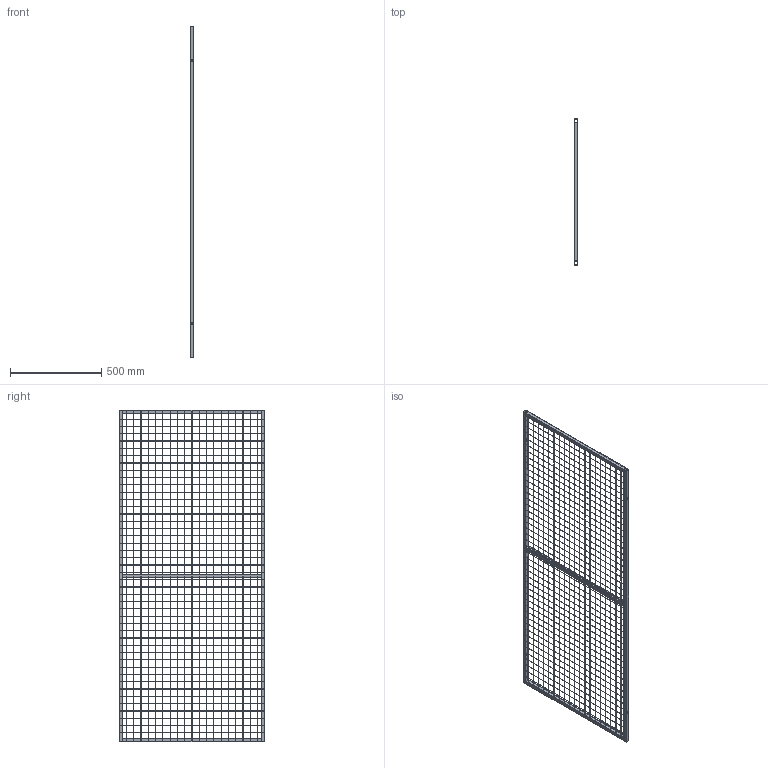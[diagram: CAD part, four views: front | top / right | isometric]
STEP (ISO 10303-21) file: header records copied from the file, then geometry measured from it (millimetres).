
FILE_DESCRIPTION (( 'STEP AP203' ), '1' );
FILE_NAME ('800.STEP', '2023-03-14T02:40:04', ( '504148165@qq.com' ), ( '' ), 'SwSTEP 2.0', 'SolidWorks 2021', '' );
FILE_SCHEMA (( 'CONFIG_CONTROL_DESIGN' ));
Length unit declared in the file: millimetre
Products named in the file (4): 800厙え; 800; 1820
Assembly tree (6 placements, depth 2):
  800
    1820  x2
    800  x3
    800厙え
Bounding box: 21 x 800 x 1820 mm (x, y, z)
Volume: 919743.4 mm3; surface area: 1127372 mm2
Topology: 68 solids, 68 shells, 444 faces, 924 edges, 616 vertices
Faces by surface type: plane 428, cylinder 16
Entity records: 10838 total; most frequent: CARTESIAN_POINT 1795, DIRECTION 1674, ORIENTED_EDGE 1656, EDGE_CURVE 828, VECTOR 812, LINE 812, VERTEX_POINT 552, AXIS2_PLACEMENT_3D 431
